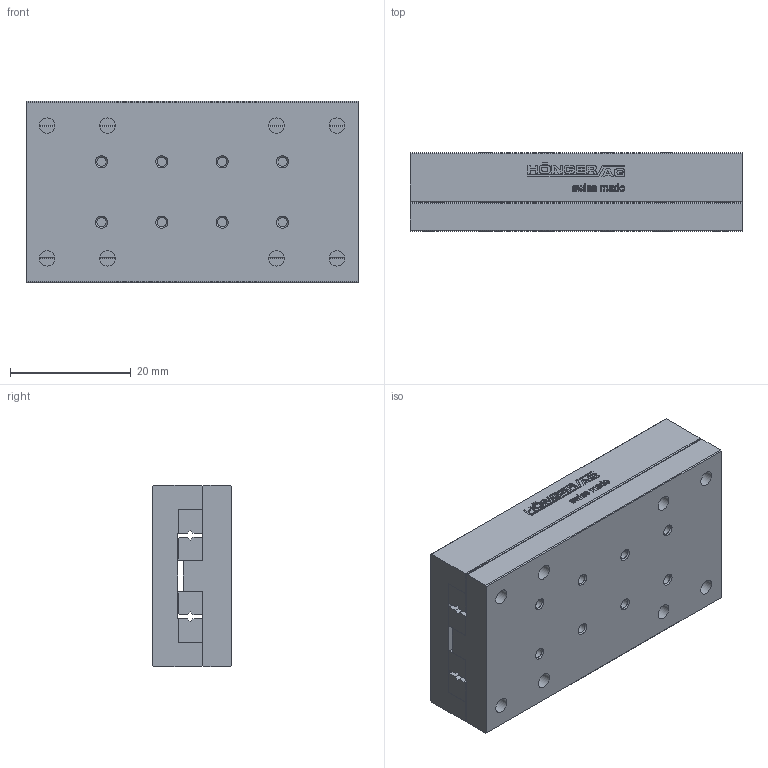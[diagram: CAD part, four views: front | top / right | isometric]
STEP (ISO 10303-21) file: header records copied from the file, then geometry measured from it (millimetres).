
FILE_DESCRIPTION(/* description */ ('STEP AP214'),/* implementation_level */ '2;1');
FILE_NAME(/* name */ 'NKL 1-55(0)',/* time_stamp */ '2025-04-23T07:56:26+02:00',/* author */ ('License CC BY-ND 4.0'),/* organization */ ('CADENAS'),/* preprocessor_version */ 'ST-DEVELOPER v19.3',/* originating_system */ 'PARTsolutions',/* authorisation */ ' ');
FILE_SCHEMA (('AUTOMOTIVE_DESIGN {1 0 10303 214 3 1 1}'));
Length unit declared in the file: millimetre
Products named in the file (3): NKL 1-55(0); NKL 1-55_1; NKL 1-55_2
Assembly tree (2 placements, depth 2):
  NKL 1-55(0)
    NKL 1-55_1
    NKL 1-55_2
Bounding box: 55 x 13 x 30 mm (x, y, z)
Volume: 20202.5 mm3; surface area: 12137.3 mm2
Topology: 2 solids, 2 shells, 653 faces, 1758 edges, 1156 vertices
Faces by surface type: cylinder 324, plane 297, cone 32
Full cylindrical faces by diameter (mm): 1.567 x16, 2.55 x8, 4.3 x8
Entity records: 20447 total; most frequent: DIRECTION 3686, CARTESIAN_POINT 3506, ORIENTED_EDGE 3388, EDGE_CURVE 1694, AXIS2_PLACEMENT_3D 1336, VERTEX_POINT 1156, LINE 1014, VECTOR 1014
